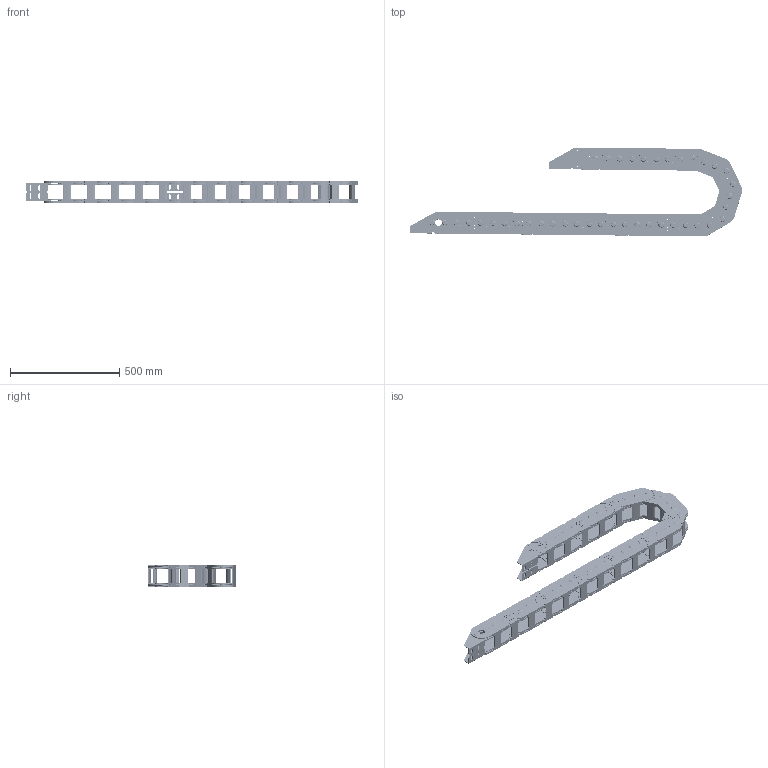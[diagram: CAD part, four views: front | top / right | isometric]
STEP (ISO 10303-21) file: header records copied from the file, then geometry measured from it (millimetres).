
FILE_DESCRIPTION((''),'2;1');
FILE_NAME('80GD-75-R150_ASM','2022-07-31T15:31:45',('admin'),(''),'CREO PARAMETRIC BY PTC INC, 2021164','CREO PARAMETRIC BY PTC INC, 2021164','');
FILE_SCHEMA(('CONFIG_CONTROL_DESIGN','GEOMETRIC_VALIDATION_PROPERTIES_MIM'));
Length unit declared in the file: millimetre
Products named in the file (5): 80-A; 80-B; 80-LTT; 80-LTT-2; 80GD-75-R150_ASM
Assembly tree (22 placements, depth 2):
  80GD-75-R150_ASM
    80-A  x10
    80-B  x10
    80-LTT
    80-LTT-2
Bounding box: 1516.98 x 405.92 x 100.1 mm (x, y, z)
Volume: 8927135.7 mm3; surface area: 2831758.5 mm2
Topology: 84 solids, 84 shells, 3560 faces, 9646 edges, 6538 vertices
Faces by surface type: cylinder 1580, plane 1420, torus 400, cone 160
Entity records: 21381 total; most frequent: DIRECTION 3082, CARTESIAN_POINT 2846, ORIENTED_EDGE 2732, EDGE_CURVE 1366, AXIS2_PLACEMENT_3D 1189, PRESENTATION_STYLE_ASSIGNMENT 1114, STYLED_ITEM 1114, VERTEX_POINT 922
